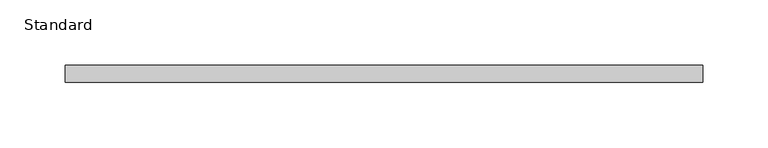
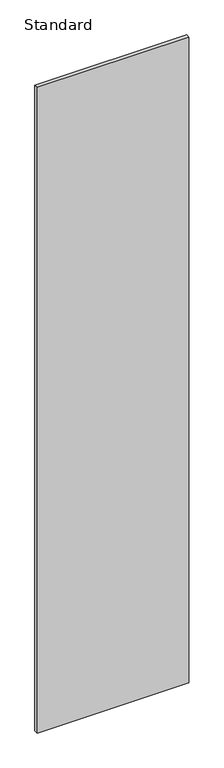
"""IFC4 building model written with IfcOpenShell, lengths in millimetres: furniture geometry, X_Partition-Compact Laminate-Duracube-Rectangular : Standard."""

from ifc_helpers import new_model, si_unit, frame, origin, place, context, project, spatial, polyline, outline, extrude, source, transform, mapped, element, save


def standard_3be396ba(model_context):
    return source(origin(), model_context, "Body", "SweptSolid", [
        extrude(outline(polyline([(288.9503264, 0.0), (288.9503264, -13.0), (-199.5496736, -13.0), (-199.5496736, 0.0), (288.9503264, 0.0)])), frame((0.0, 0.0, 200.0), z_axis=(0.0, 0.0, 1.0), x_axis=(1.0, 0.0, 0.0)), (0.0, 0.0, 1.0), 2198.0),
    ])


if __name__ == "__main__":
    model = new_model("IFC4")
    model_context = context("Model", 3, world=origin())
    ifc_project = project(units=[si_unit("LENGTHUNIT", "METRE", prefix="MILLI")], contexts=[model_context])
    site = spatial("IfcSite", under=ifc_project)
    building = spatial("IfcBuilding", under=site)
    placement = place(None, origin())
    standard_shape = standard_3be396ba(model_context)
    element("IfcFurniture", 1, ObjectType="X_Partition-Compact Laminate-Duracube-Rectangular : Standard", at=placement, inside=building, context=model_context, shape_type="MappedRepresentation", body=[
        mapped(standard_shape, transform((0.0, 0.0, 0.0), x_axis=(1.0, 0.0, 0.0), y_axis=(0.0, 1.0, 0.0), z_axis=(0.0, 0.0, 1.0))),
    ])
    save(model, "model.ifc")
